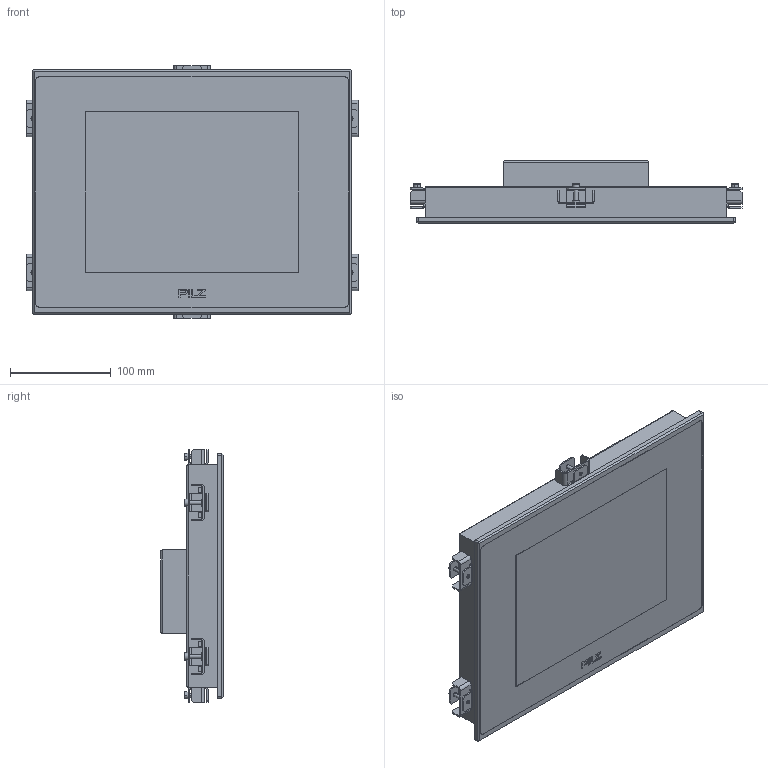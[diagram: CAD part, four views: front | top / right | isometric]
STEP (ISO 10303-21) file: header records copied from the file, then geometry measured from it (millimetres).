
FILE_DESCRIPTION((''),'2;1');
FILE_NAME('2022938_ASM','2016-06-17T',('rink'),(''),'PRO/ENGINEER BY PARAMETRIC TECHNOLOGY CORPORATION, 2015110','PRO/ENGINEER BY PARAMETRIC TECHNOLOGY CORPORATION, 2015110','');
FILE_SCHEMA(('AUTOMOTIVE_DESIGN { 1 0 10303 214 1 1 1 1 }'));
Length unit declared in the file: millimetre
Products named in the file (6): 2022937; 2007993; 2007991; 2000431; 2011570_ASM; 2022938_ASM
Assembly tree (10 placements, depth 3):
  2022938_ASM
    2022937
    2011570_ASM  x6
      2007993
      2007991
      2000431
Bounding box: 330 x 62.5 x 251 mm (x, y, z)
Volume: 2812757.4 mm3; surface area: 229414.2 mm2
Topology: 25 solids, 31 shells, 727 faces, 1675 edges, 1050 vertices
Faces by surface type: plane 501, cylinder 186, torus 24, cone 16
Entity records: 8533 total; most frequent: CARTESIAN_POINT 1089, DIRECTION 986, ORIENTED_EDGE 876, PRESENTATION_STYLE_ASSIGNMENT 473, STYLED_ITEM 471, CURVE_STYLE 465, EDGE_CURVE 440, VECTOR 360
